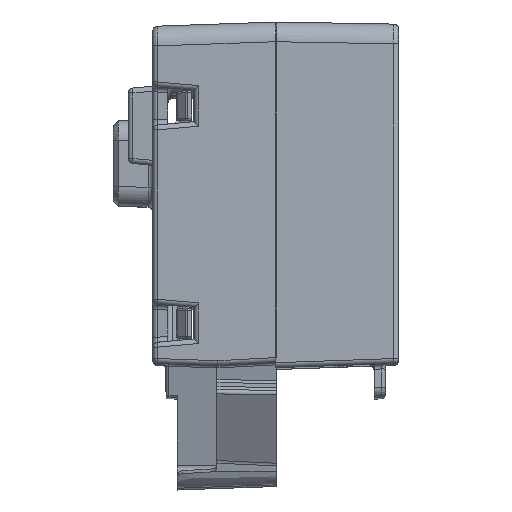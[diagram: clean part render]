
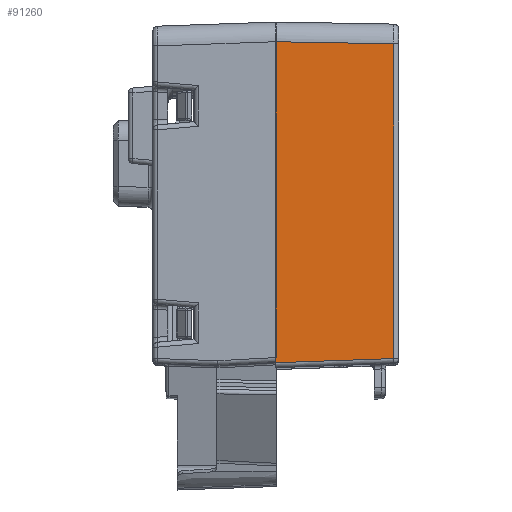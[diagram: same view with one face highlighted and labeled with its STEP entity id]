
A CAD part, top view. The second image highlights one B-rep face of the part: STEP entity #91260.
In plain terms, the highlighted planar face has unit normal (0.018, 0, 1).
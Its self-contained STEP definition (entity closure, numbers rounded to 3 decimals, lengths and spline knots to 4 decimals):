
#5601=FACE_OUTER_BOUND('',#10388,.T.);
#10388=EDGE_LOOP('',(#59165,#59166,#59167,#59168,#59169,#59170,#59171,#59172,
#59173,#59174,#59175,#59176,#59177));
#15408=LINE('',#129363,#24905);
#15624=LINE('',#130872,#25121);
#16109=LINE('',#135227,#25606);
#16110=LINE('',#135229,#25607);
#16111=LINE('',#135231,#25608);
#16112=LINE('',#135233,#25609);
#16113=LINE('',#135237,#25610);
#16114=LINE('',#135240,#25611);
#16115=LINE('',#135242,#25612);
#16116=LINE('',#135243,#25613);
#16117=LINE('',#135244,#25614);
#24905=VECTOR('',#104219,39.3701);
#25121=VECTOR('',#104805,39.3701);
#25606=VECTOR('',#106274,0.3937);
#25607=VECTOR('',#106275,0.3937);
#25608=VECTOR('',#106276,0.3937);
#25609=VECTOR('',#106277,0.3937);
#25610=VECTOR('',#106280,0.3937);
#25611=VECTOR('',#106283,39.3701);
#25612=VECTOR('',#106284,39.3701);
#25613=VECTOR('',#106285,39.3701);
#25614=VECTOR('',#106286,0.3937);
#34466=ELLIPSE('',#96613,0.5648,0.0197);
#34467=ELLIPSE('',#96614,2.2576,0.0787);
#35423=VERTEX_POINT('',#129359);
#35425=VERTEX_POINT('',#129362);
#35753=VERTEX_POINT('',#130869);
#35754=VERTEX_POINT('',#130871);
#36424=VERTEX_POINT('',#135225);
#36425=VERTEX_POINT('',#135226);
#36426=VERTEX_POINT('',#135228);
#36427=VERTEX_POINT('',#135230);
#36428=VERTEX_POINT('',#135232);
#36429=VERTEX_POINT('',#135234);
#36430=VERTEX_POINT('',#135236);
#36431=VERTEX_POINT('',#135238);
#36432=VERTEX_POINT('',#135241);
#43960=EDGE_CURVE('',#35423,#35425,#15408,.T.);
#44349=EDGE_CURVE('',#35753,#35754,#15624,.T.);
#45240=EDGE_CURVE('',#36424,#36425,#16109,.T.);
#45241=EDGE_CURVE('',#36426,#36424,#16110,.T.);
#45242=EDGE_CURVE('',#36427,#36426,#16111,.T.);
#45243=EDGE_CURVE('',#36428,#36427,#16112,.T.);
#45244=EDGE_CURVE('',#36429,#36428,#34466,.T.);
#45245=EDGE_CURVE('',#36430,#36429,#16113,.T.);
#45246=EDGE_CURVE('',#36431,#36430,#34467,.T.);
#45247=EDGE_CURVE('',#35754,#36431,#16114,.T.);
#45248=EDGE_CURVE('',#36432,#35753,#16115,.T.);
#45249=EDGE_CURVE('',#35425,#36432,#16116,.T.);
#45250=EDGE_CURVE('',#36425,#35423,#16117,.T.);
#59165=ORIENTED_EDGE('',*,*,#45240,.F.);
#59166=ORIENTED_EDGE('',*,*,#45241,.F.);
#59167=ORIENTED_EDGE('',*,*,#45242,.F.);
#59168=ORIENTED_EDGE('',*,*,#45243,.F.);
#59169=ORIENTED_EDGE('',*,*,#45244,.F.);
#59170=ORIENTED_EDGE('',*,*,#45245,.F.);
#59171=ORIENTED_EDGE('',*,*,#45246,.F.);
#59172=ORIENTED_EDGE('',*,*,#45247,.F.);
#59173=ORIENTED_EDGE('',*,*,#44349,.F.);
#59174=ORIENTED_EDGE('',*,*,#45248,.F.);
#59175=ORIENTED_EDGE('',*,*,#45249,.F.);
#59176=ORIENTED_EDGE('',*,*,#43960,.F.);
#59177=ORIENTED_EDGE('',*,*,#45250,.F.);
#83327=PLANE('',#96612);
#91260=ADVANCED_FACE('',(#5601),#83327,.T.);
#96612=AXIS2_PLACEMENT_3D('',#135224,#106272,#106273);
#96613=AXIS2_PLACEMENT_3D('',#135235,#106278,#106279);
#96614=AXIS2_PLACEMENT_3D('',#135239,#106281,#106282);
#104219=DIRECTION('',(1.,-0.017,-0.017));
#104805=DIRECTION('',(0.,1.,0.));
#106272=DIRECTION('center_axis',(0.017,0.,
1.));
#106273=DIRECTION('ref_axis',(-1.,0.,0.017));
#106274=DIRECTION('',(0.,1.,0.));
#106275=DIRECTION('',(0.,1.,0.));
#106276=DIRECTION('',(0.,1.,0.));
#106277=DIRECTION('',(0.,1.,0.));
#106278=DIRECTION('center_axis',(0.017,0.,
1.));
#106279=DIRECTION('ref_axis',(0.998,0.052,-0.017));
#106280=DIRECTION('',(0.,-1.,0.));
#106281=DIRECTION('center_axis',(0.017,0.,
1.));
#106282=DIRECTION('ref_axis',(0.999,0.035,-0.017));
#106283=DIRECTION('',(1.,-0.017,-0.017));
#106284=DIRECTION('',(-0.999,-0.035,0.017));
#106285=DIRECTION('',(0.,-1.,0.));
#106286=DIRECTION('',(0.,1.,0.));
#129359=CARTESIAN_POINT('',(0.4724,0.4299,0.1279));
#129362=CARTESIAN_POINT('',(0.9413,0.4217,0.1197));
#129363=CARTESIAN_POINT('',(0.4793,0.4298,0.1278));
#130869=CARTESIAN_POINT('',(0.4685,-0.8496,0.128));
#130871=CARTESIAN_POINT('',(0.4685,0.43,0.128));
#130872=CARTESIAN_POINT('',(0.4685,-0.1879,0.128));
#135224=CARTESIAN_POINT('Origin',(0.4685,-0.1879,0.128));
#135225=CARTESIAN_POINT('',(0.4724,0.1054,0.1279));
#135226=CARTESIAN_POINT('',(0.4724,0.2428,0.1279));
#135227=CARTESIAN_POINT('',(0.4724,0.0246,0.1279));
#135228=CARTESIAN_POINT('',(0.4724,-0.6234,0.1279));
#135229=CARTESIAN_POINT('',(0.4724,-0.5285,0.1279));
#135230=CARTESIAN_POINT('',(0.4724,-0.7608,0.1279));
#135231=CARTESIAN_POINT('',(0.4724,-0.4085,0.1279));
#135232=CARTESIAN_POINT('',(0.4724,-0.8305,0.1279));
#135233=CARTESIAN_POINT('',(0.4724,-0.5285,0.1279));
#135234=CARTESIAN_POINT('',(0.4705,-0.829,0.1279));
#135235=CARTESIAN_POINT('Origin',(1.0344,-0.7994,0.1181));
#135236=CARTESIAN_POINT('',(0.4705,0.4299,0.1279));
#135237=CARTESIAN_POINT('',(0.4705,-0.1878,0.1279));
#135238=CARTESIAN_POINT('',(0.4705,0.4299,0.1279));
#135239=CARTESIAN_POINT('Origin',(2.7263,0.5086,0.0885));
#135240=CARTESIAN_POINT('',(0.4793,0.4298,0.1278));
#135241=CARTESIAN_POINT('',(0.9413,-0.8331,0.1197));
#135242=CARTESIAN_POINT('',(0.4678,-0.8496,0.128));
#135243=CARTESIAN_POINT('',(0.9413,-0.1879,0.1197));
#135244=CARTESIAN_POINT('',(0.4724,-0.5285,0.1279));
